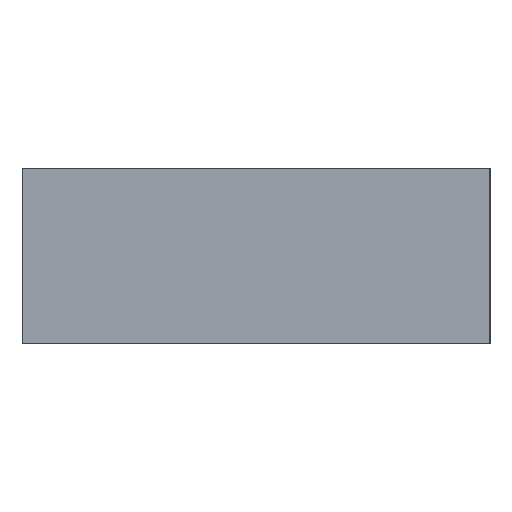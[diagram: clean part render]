
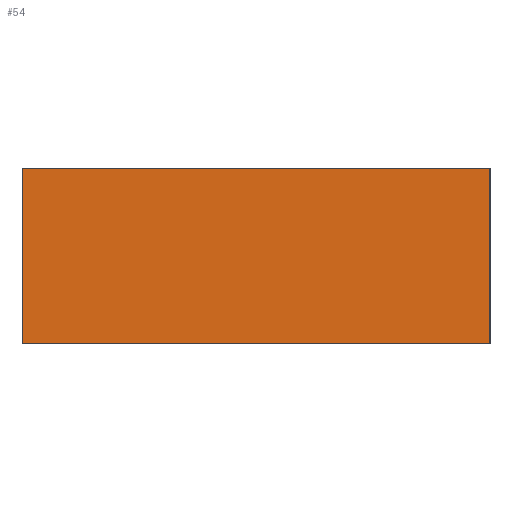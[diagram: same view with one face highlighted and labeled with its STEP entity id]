
A CAD part, left-side view. The second image highlights one B-rep face of the part: STEP entity #54.
In plain terms, the highlighted planar face has unit normal (-1, 0, 0).
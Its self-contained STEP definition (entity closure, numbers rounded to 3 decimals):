
#54 = ADVANCED_FACE( '', ( #111 ), #112, .F. );
#111 = FACE_OUTER_BOUND( '', #164, .T. );
#112 = PLANE( '', #165 );
#164 = EDGE_LOOP( '', ( #242, #243, #244, #245 ) );
#165 = AXIS2_PLACEMENT_3D( '', #246, #247, #248 );
#242 = ORIENTED_EDGE( '', *, *, #324, .T. );
#243 = ORIENTED_EDGE( '', *, *, #325, .F. );
#244 = ORIENTED_EDGE( '', *, *, #326, .F. );
#245 = ORIENTED_EDGE( '', *, *, #297, .T. );
#246 = CARTESIAN_POINT( '', ( -6., 0., 6. ) );
#247 = DIRECTION( '', ( 1., 0., 0. ) );
#248 = DIRECTION( '', ( 0., 0., -1. ) );
#297 = EDGE_CURVE( '', #342, #340, #343, .T. );
#324 = EDGE_CURVE( '', #340, #384, #385, .T. );
#325 = EDGE_CURVE( '', #386, #384, #387, .T. );
#326 = EDGE_CURVE( '', #342, #386, #388, .T. );
#340 = VERTEX_POINT( '', #402 );
#342 = VERTEX_POINT( '', #405 );
#343 = LINE( '', #406, #407 );
#384 = VERTEX_POINT( '', #463 );
#385 = LINE( '', #464, #465 );
#386 = VERTEX_POINT( '', #466 );
#387 = LINE( '', #467, #468 );
#388 = LINE( '', #469, #470 );
#402 = CARTESIAN_POINT( '', ( -6., 0., -6. ) );
#405 = CARTESIAN_POINT( '', ( -6., 0., 6. ) );
#406 = CARTESIAN_POINT( '', ( -6., 0., 6. ) );
#407 = VECTOR( '', #488, 1000. );
#463 = CARTESIAN_POINT( '', ( -6., -32., -6. ) );
#464 = CARTESIAN_POINT( '', ( -6., 0., -6. ) );
#465 = VECTOR( '', #513, 1000. );
#466 = CARTESIAN_POINT( '', ( -6., -32., 6. ) );
#467 = CARTESIAN_POINT( '', ( -6., -32., 6. ) );
#468 = VECTOR( '', #514, 1000. );
#469 = CARTESIAN_POINT( '', ( -6., 0., 6. ) );
#470 = VECTOR( '', #515, 1000. );
#488 = DIRECTION( '', ( 0., 0., -1. ) );
#513 = DIRECTION( '', ( 0., -1., 0. ) );
#514 = DIRECTION( '', ( 0., 0., -1. ) );
#515 = DIRECTION( '', ( 0., -1., 0. ) );
